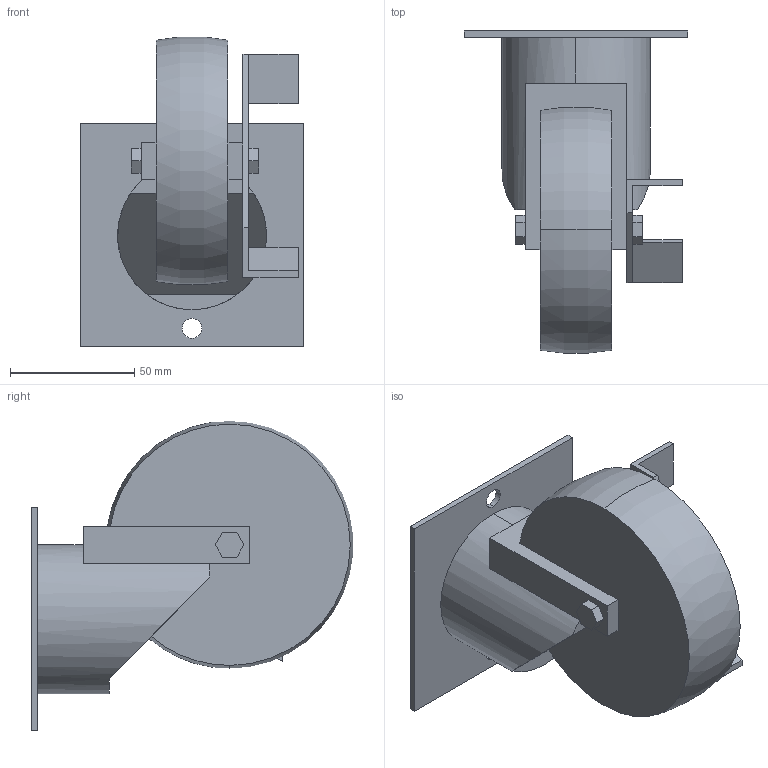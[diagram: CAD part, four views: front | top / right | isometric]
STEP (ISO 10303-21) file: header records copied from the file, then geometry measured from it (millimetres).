
FILE_DESCRIPTION (( 'STEP AP214' ), '1' );
FILE_NAME ('ST-100SGNU.step', '2024-02-19T02:11:17', ( 'catia' ), ( 'HP Inc.' ), 'SwSTEP 2.0', 'SolidWorks 2021', '' );
FILE_SCHEMA (( 'AUTOMOTIVE_DESIGN' ));
Length unit declared in the file: millimetre
Products named in the file (1): ST-100SGNU
Bounding box: 90 x 129.67 x 124.84 mm (x, y, z)
Volume: 380924.1 mm3; surface area: 52573.2 mm2
Topology: 1 solids, 1 shells, 59 faces, 156 edges, 102 vertices
Faces by surface type: plane 50, cylinder 6, torus 3
Entity records: 1858 total; most frequent: CARTESIAN_POINT 338, ORIENTED_EDGE 312, DIRECTION 296, EDGE_CURVE 156, LINE 128, VECTOR 128, VERTEX_POINT 102, AXIS2_PLACEMENT_3D 84
